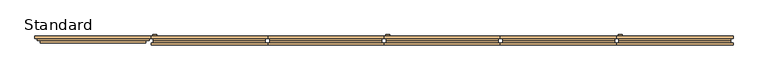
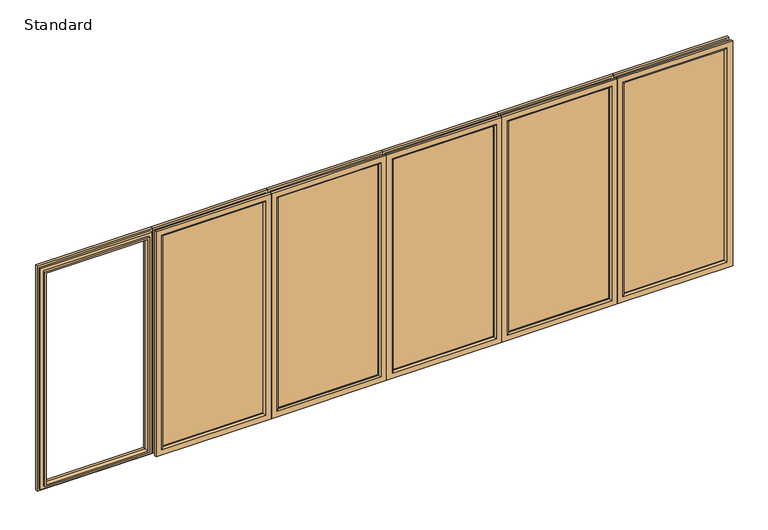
"""IFC4 building model written with IfcOpenShell, lengths in millimetres: door geometry, SMARTS_Visofold1000 : Standard."""

from ifc_helpers import new_model, si_unit, point, frame, frame_2d, origin, place, context, project, spatial, polyline, circle_curve, ellipse_curve, trimmed, segment, composite_curve, outline, extrude, faceted_brep, source, transform, mapped, element, save
from ifc_brep_helpers import plane_surface, cylinder_surface, advanced_brep


def standard_f7299581(model_context):
    return source(origin(), model_context, "Body", "SolidModel", [
        extrude(outline(composite_curve([segment(trimmed(circle_curve(frame_2d((1228.0996413, 1920.0)), 16.0), [point((1228.0996413, 1936.0))], [point((1228.0996413, 1904.0))], False, "CARTESIAN"), True, "CONTINUOUS"), segment(polyline([(1228.0996413, 1904.0), (1040.0996413, 1904.0)]), True, "CONTINUOUS"), segment(trimmed(circle_curve(frame_2d((1040.0996413, 1920.0)), 16.0), [point((1040.0996413, 1904.0))], [point((1040.0996413, 1936.0))], False, "CARTESIAN"), True, "CONTINUOUS"), segment(polyline([(1040.0996413, 1936.0), (1228.0996413, 1936.0)]), True, "CONTINUOUS")], self_intersect=False)), frame((0.0, 75.0, 0.0), z_axis=(0.0, 1.0, 0.0), x_axis=(0.0, 0.0, 1.0)), (0.0, 0.0, 1.0), 10.0),
        extrude(outline(polyline([(45.0, 1935.0), (45.0, 2815.0), (1955.0, 2815.0), (1955.0, 1935.0), (45.0, 1935.0)]), holes=[polyline([(1939.5, 1950.5), (1939.5, 2799.5), (60.5, 2799.5), (60.5, 1950.5), (1939.5, 1950.5)])]), frame((0.0, 17.4, 0.0), z_axis=(0.0, 1.0, 0.0), x_axis=(0.0, 0.0, 1.0)), (0.0, 0.0, 1.0), 35.0),
        faceted_brep([(1890.0, 74.4, 0.0), (1890.0, 52.4, 0.0), (1890.0, 52.4, 2000.0), (1890.0, 74.4, 2000.0), (1950.5, 52.4, 60.5), (1950.5, 74.4, 60.5), (1950.5, 74.4, 1939.5), (1950.5, 52.4, 1939.5), (2860.0, 52.4, 2000.0), (2860.0, 74.4, 2000.0), (2799.5, 74.4, 1939.5), (2799.5, 52.4, 1939.5), (2860.0, 52.4, 0.0), (2860.0, 74.4, 0.0), (2799.5, 74.4, 60.5), (2799.5, 52.4, 60.5), (1907.8691481, 34.8, 17.8691481), (2842.1308519, 34.8, 17.8691481), (2842.1308519, 34.8, 1982.1308519), (1907.8691481, 34.8, 1982.1308519), (1935.0, 34.8, 1955.0), (2815.0, 34.8, 1955.0), (2815.0, 34.8, 45.0), (1935.0, 34.8, 45.0), (1907.8691481, 52.4, 17.8691481), (1907.8691481, 52.4, 1982.1308519), (1935.0, 52.4, 45.0), (1935.0, 52.4, 1955.0), (2842.1308519, 52.4, 1982.1308519), (2815.0, 52.4, 1955.0), (2842.1308519, 52.4, 17.8691481), (2815.0, 52.4, 45.0)], [[[0, 1, 2, 3]], [[4, 5, 6, 7]], [[3, 2, 8, 9]], [[7, 6, 10, 11]], [[9, 8, 12, 13]], [[11, 10, 14, 15]], [[13, 12, 1, 0]], [[3, 9, 13, 0], [5, 14, 10, 6]], [[15, 14, 5, 4]], [[16, 17, 18, 19], [20, 21, 22, 23]], [[24, 16, 19, 25]], [[23, 26, 27, 20]], [[25, 19, 18, 28]], [[20, 27, 29, 21]], [[28, 18, 17, 30]], [[21, 29, 31, 22]], [[30, 17, 16, 24]], [[1, 12, 8, 2], [25, 28, 30, 24]], [[26, 31, 29, 27], [7, 11, 15, 4]], [[22, 31, 26, 23]]]),
        advanced_brep(
        [(1950.5, 13.3, 60.5), (1950.5, 17.4, 60.5), (1950.5, 17.4, 1939.5), (1950.5, 13.3, 1939.5), (1890.0, 17.4, 0.0), (1890.0, 0.0, 0.0), (1890.0, 0.0, 2000.0), (1890.0, 17.4, 2000.0), (2799.5, 17.4, 1939.5), (2799.5, 13.3, 1939.5), (2860.0, 0.0, 2000.0), (2860.0, 17.4, 2000.0), (2799.5, 17.4, 60.5), (2799.5, 13.3, 60.5), (2860.0, 0.0, 0.0), (2860.0, 17.4, 0.0), (1937.2, 0.0, 1952.8), (2812.8, 0.0, 1952.8), (2812.8, 0.0, 47.2), (1937.2, 0.0, 47.2), (1907.8691481, 34.8, 17.8691481), (1907.8691481, 17.4, 17.8691481), (1907.8691481, 17.4, 1982.1308519), (1907.8691481, 34.8, 1982.1308519), (2842.1308519, 17.4, 1982.1308519), (2842.1308519, 34.8, 1982.1308519), (2842.1308519, 17.4, 17.8691481), (2842.1308519, 34.8, 17.8691481), (1935.0, 17.4, 45.0), (1935.0, 34.8, 45.0), (1935.0, 34.8, 1955.0), (1935.0, 17.4, 1955.0), (2815.0, 34.8, 1955.0), (2815.0, 17.4, 1955.0), (2815.0, 34.8, 45.0), (2815.0, 17.4, 45.0)],
        [
            (0, 1),
            (1, 2),
            (2, 3),
            (3, 0),
            (4, 5),
            (5, 6),
            (6, 7),
            (7, 4),
            (2, 8),
            (8, 9),
            (9, 3),
            (6, 10),
            (10, 11),
            (11, 7),
            (8, 12),
            (12, 13),
            (13, 9),
            (10, 14),
            (14, 15),
            (15, 11),
            (12, 1),
            (0, 13),
            (5, 14),
            (16, 17),
            (17, 18),
            (18, 19),
            (19, 16),
            (4, 15),
            (19, 0, ellipse_curve(frame((1937.2, 13.3, 47.2), z_axis=(-0.70710678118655, 0.0, 0.7071067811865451), x_axis=(-0.7071067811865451, 0.0, -0.7071067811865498)), 18.8090404, 13.3)),
            (3, 16, ellipse_curve(frame((1937.2, 13.3, 1952.8), z_axis=(-0.7071067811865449, 0.0, -0.70710678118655), x_axis=(0.7071067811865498, 0.0, -0.7071067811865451)), 18.8090404, 13.3)),
            (9, 17, ellipse_curve(frame((2812.8, 13.3, 1952.8), z_axis=(-0.7071067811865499, 0.0, 0.707106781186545), x_axis=(-0.7071067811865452, 0.0, -0.7071067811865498)), 18.8090404, 13.3)),
            (13, 18, ellipse_curve(frame((2812.8, 13.3, 47.2), z_axis=(0.7071067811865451, 0.0, 0.7071067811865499), x_axis=(-0.7071067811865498, 0.0, 0.7071067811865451)), 18.8090404, 13.3)),
            (20, 21),
            (21, 22),
            (22, 23),
            (23, 20),
            (22, 24),
            (24, 25),
            (25, 23),
            (24, 26),
            (26, 27),
            (27, 25),
            (21, 26),
            (20, 27),
            (28, 29),
            (29, 30),
            (30, 31),
            (31, 28),
            (30, 32),
            (32, 33),
            (33, 31),
            (32, 34),
            (34, 35),
            (35, 33),
            (34, 29),
            (28, 35),
        ],
        [
            plane_surface(frame((1950.5, 17.4, 60.5), z_axis=(1.0, 0.0, 0.0), x_axis=(0.0, 0.0, 1.0))),
            plane_surface(frame((1890.0, 0.0, 0.0), z_axis=(-1.0, 0.0, 0.0), x_axis=(0.0, 0.0, 1.0))),
            plane_surface(frame((1950.5, 17.4, 1939.5), z_axis=(0.0, 0.0, -1.0), x_axis=(1.0, 0.0, 0.0))),
            plane_surface(frame((1890.0, 0.0, 2000.0), z_axis=(0.0, 0.0, 1.0), x_axis=(1.0, 0.0, 0.0))),
            plane_surface(frame((2799.5, 17.4, 1939.5), z_axis=(-1.0, 0.0, 0.0), x_axis=(0.0, 0.0, -1.0))),
            plane_surface(frame((2860.0, 0.0, 2000.0), z_axis=(1.0, 0.0, 0.0), x_axis=(0.0, 0.0, -1.0))),
            plane_surface(frame((2799.5, 17.4, 60.5), z_axis=(0.0, 0.0, 1.0), x_axis=(-1.0, 0.0, 0.0))),
            plane_surface(frame((2812.8, 0.0, 47.2), z_axis=(0.0, -1.0, 0.0), x_axis=(-1.0, 0.0, 0.0))),
            plane_surface(frame((2860.0, 0.0, 0.0), z_axis=(0.0, 0.0, -1.0), x_axis=(-1.0, 0.0, 0.0))),
            cylinder_surface(frame((1937.2, 13.3, 0.0), z_axis=(0.0, 0.0, -1.0), x_axis=(0.0, 1.0, 0.0)), 13.3),
            cylinder_surface(frame((1890.0, 13.3, 1952.8), z_axis=(-1.0, 0.0, 0.0), x_axis=(0.0, 1.0, 0.0)), 13.3),
            cylinder_surface(frame((2812.8, 13.3, 2000.0), z_axis=(0.0, 0.0, 1.0), x_axis=(0.0, 1.0, 0.0)), 13.3),
            cylinder_surface(frame((2860.0, 13.3, 47.2), z_axis=(1.0, 0.0, 0.0), x_axis=(0.0, 1.0, 0.0)), 13.3),
            plane_surface(frame((1907.8691481, 17.4, 17.8691481), z_axis=(-1.0, 0.0, 0.0), x_axis=(0.0, 0.0, 1.0))),
            plane_surface(frame((1907.8691481, 17.4, 1982.1308519), z_axis=(0.0, 0.0, 1.0), x_axis=(1.0, 0.0, 0.0))),
            plane_surface(frame((2842.1308519, 17.4, 1982.1308519), z_axis=(1.0, 0.0, 0.0), x_axis=(0.0, 0.0, -1.0))),
            plane_surface(frame((2860.0, 17.4, 0.0), z_axis=(0.0, 1.0, 0.0), x_axis=(-1.0, 0.0, 0.0))),
            plane_surface(frame((2842.1308519, 17.4, 17.8691481), z_axis=(0.0, 0.0, -1.0), x_axis=(-1.0, 0.0, 0.0))),
            plane_surface(frame((1935.0, 34.8, 45.0), z_axis=(1.0, 0.0, 0.0), x_axis=(0.0, 0.0, 1.0))),
            plane_surface(frame((1935.0, 34.8, 1955.0), z_axis=(0.0, 0.0, -1.0), x_axis=(1.0, 0.0, 0.0))),
            plane_surface(frame((2815.0, 34.8, 1955.0), z_axis=(-1.0, 0.0, 0.0), x_axis=(0.0, 0.0, -1.0))),
            plane_surface(frame((2815.0, 34.8, 45.0), z_axis=(0.0, 0.0, 1.0), x_axis=(-1.0, 0.0, 0.0))),
            plane_surface(frame((2815.0, 17.4, 45.0), z_axis=(0.0, 1.0, 0.0), x_axis=(-1.0, 0.0, 0.0))),
            plane_surface(frame((2842.1308519, 34.8, 17.8691481), z_axis=(0.0, 1.0, 0.0), x_axis=(-1.0, 0.0, 0.0))),
        ],
        [
            (0, [[1, 2, 3, 4]]),
            (1, [[5, 6, 7, 8]]),
            (2, [[-3, 9, 10, 11]]),
            (3, [[-7, 12, 13, 14]]),
            (4, [[-10, 15, 16, 17]]),
            (5, [[-13, 18, 19, 20]]),
            (6, [[-16, 21, -1, 22]]),
            (7, [[23, -18, -12, -6], [24, 25, 26, 27]]),
            (8, [[-19, -23, -5, 28]]),
            (9, [[29, -4, 30, -27]]),
            (10, [[-30, -11, 31, -24]]),
            (11, [[-31, -17, 32, -25]]),
            (12, [[-32, -22, -29, -26]]),
            (13, [[33, 34, 35, 36]]),
            (14, [[-35, 37, 38, 39]]),
            (15, [[-38, 40, 41, 42]]),
            (16, [[-14, -20, -28, -8], [43, -40, -37, -34]]),
            (17, [[-41, -43, -33, 44]]),
            (18, [[45, 46, 47, 48]]),
            (19, [[-47, 49, 50, 51]]),
            (20, [[-50, 52, 53, 54]]),
            (21, [[-53, 55, -45, 56]]),
            (22, [[-51, -54, -56, -48], [-21, -15, -9, -2]]),
            (23, [[-39, -42, -44, -36], [-55, -52, -49, -46]]),
        ],
    ),
        extrude(outline(polyline([(1950.5, 50.1484783), (2799.5, 50.1484783), (2799.5, 21.4), (1950.5, 21.4), (1950.5, 50.1484783)])), frame((0.0, 0.0, 60.5), z_axis=(0.0, 0.0, 1.0), x_axis=(1.0, 0.0, 0.0)), (0.0, 0.0, 1.0), 1879.0),
        extrude(outline(polyline([(45.0, 1845.0), (1955.0, 1845.0), (1955.0, 965.0), (45.0, 965.0), (45.0, 1845.0)]), holes=[polyline([(1939.5, 1829.5), (60.5, 1829.5), (60.5, 980.5), (1939.5, 980.5), (1939.5, 1829.5)])]), frame((0.0, 17.4, 0.0), z_axis=(0.0, 1.0, 0.0), x_axis=(0.0, 0.0, 1.0)), (0.0, 0.0, 1.0), 35.0),
        faceted_brep([(1890.0, 74.4, 0.0), (1890.0, 74.4, 2000.0), (1890.0, 52.4, 2000.0), (1890.0, 52.4, 0.0), (1829.5, 52.4, 60.5), (1829.5, 52.4, 1939.5), (1829.5, 74.4, 1939.5), (1829.5, 74.4, 60.5), (920.0, 74.4, 2000.0), (920.0, 52.4, 2000.0), (980.5, 52.4, 1939.5), (980.5, 74.4, 1939.5), (920.0, 74.4, 0.0), (920.0, 52.4, 0.0), (980.5, 52.4, 60.5), (980.5, 74.4, 60.5), (1872.1308519, 34.8, 17.8691481), (1872.1308519, 34.8, 1982.1308519), (937.8691481, 34.8, 1982.1308519), (937.8691481, 34.8, 17.8691481), (1845.0, 34.8, 1955.0), (1845.0, 34.8, 45.0), (965.0, 34.8, 45.0), (965.0, 34.8, 1955.0), (1872.1308519, 52.4, 17.8691481), (1872.1308519, 52.4, 1982.1308519), (1845.0, 52.4, 1955.0), (1845.0, 52.4, 45.0), (937.8691481, 52.4, 1982.1308519), (965.0, 52.4, 1955.0), (937.8691481, 52.4, 17.8691481), (965.0, 52.4, 45.0)], [[[0, 1, 2, 3]], [[4, 5, 6, 7]], [[1, 8, 9, 2]], [[5, 10, 11, 6]], [[8, 12, 13, 9]], [[10, 14, 15, 11]], [[12, 0, 3, 13]], [[1, 0, 12, 8], [7, 6, 11, 15]], [[14, 4, 7, 15]], [[16, 17, 18, 19], [20, 21, 22, 23]], [[24, 25, 17, 16]], [[21, 20, 26, 27]], [[25, 28, 18, 17]], [[20, 23, 29, 26]], [[28, 30, 19, 18]], [[23, 22, 31, 29]], [[30, 24, 16, 19]], [[3, 2, 9, 13], [25, 24, 30, 28]], [[27, 26, 29, 31], [5, 4, 14, 10]], [[22, 21, 27, 31]]]),
        advanced_brep(
        [(1829.5, 13.3, 60.5), (1829.5, 13.3, 1939.5), (1829.5, 17.4, 1939.5), (1829.5, 17.4, 60.5), (1890.0, 17.4, 0.0), (1890.0, 17.4, 2000.0), (1890.0, 0.0, 2000.0), (1890.0, 0.0, 0.0), (980.5, 13.3, 1939.5), (980.5, 17.4, 1939.5), (920.0, 17.4, 2000.0), (920.0, 0.0, 2000.0), (980.5, 13.3, 60.5), (980.5, 17.4, 60.5), (920.0, 17.4, 0.0), (920.0, 0.0, 0.0), (1842.8, 0.0, 1952.8), (1842.8, 0.0, 47.2), (967.2, 0.0, 47.2), (967.2, 0.0, 1952.8), (1872.1308519, 34.8, 17.8691481), (1872.1308519, 34.8, 1982.1308519), (1872.1308519, 17.4, 1982.1308519), (1872.1308519, 17.4, 17.8691481), (937.8691481, 34.8, 1982.1308519), (937.8691481, 17.4, 1982.1308519), (937.8691481, 34.8, 17.8691481), (937.8691481, 17.4, 17.8691481), (1845.0, 17.4, 45.0), (1845.0, 17.4, 1955.0), (1845.0, 34.8, 1955.0), (1845.0, 34.8, 45.0), (965.0, 17.4, 1955.0), (965.0, 34.8, 1955.0), (965.0, 17.4, 45.0), (965.0, 34.8, 45.0)],
        [
            (0, 1),
            (1, 2),
            (2, 3),
            (3, 0),
            (4, 5),
            (5, 6),
            (6, 7),
            (7, 4),
            (1, 8),
            (8, 9),
            (9, 2),
            (5, 10),
            (10, 11),
            (11, 6),
            (8, 12),
            (12, 13),
            (13, 9),
            (10, 14),
            (14, 15),
            (15, 11),
            (12, 0),
            (3, 13),
            (15, 7),
            (16, 17),
            (17, 18),
            (18, 19),
            (19, 16),
            (14, 4),
            (16, 1, ellipse_curve(frame((1842.8, 13.3, 1952.8), z_axis=(0.7071067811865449, 0.0, -0.70710678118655), x_axis=(-0.7071067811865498, 0.0, -0.7071067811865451)), 18.8090404, 13.3)),
            (0, 17, ellipse_curve(frame((1842.8, 13.3, 47.2), z_axis=(0.70710678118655, 0.0, 0.7071067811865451), x_axis=(0.7071067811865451, 0.0, -0.7071067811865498)), 18.8090404, 13.3)),
            (19, 8, ellipse_curve(frame((967.2, 13.3, 1952.8), z_axis=(0.7071067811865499, 0.0, 0.707106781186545), x_axis=(0.7071067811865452, 0.0, -0.7071067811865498)), 18.8090404, 13.3)),
            (18, 12, ellipse_curve(frame((967.2, 13.3, 47.2), z_axis=(-0.7071067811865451, 0.0, 0.7071067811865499), x_axis=(0.7071067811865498, 0.0, 0.7071067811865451)), 18.8090404, 13.3)),
            (20, 21),
            (21, 22),
            (22, 23),
            (23, 20),
            (21, 24),
            (24, 25),
            (25, 22),
            (24, 26),
            (26, 27),
            (27, 25),
            (27, 23),
            (26, 20),
            (28, 29),
            (29, 30),
            (30, 31),
            (31, 28),
            (29, 32),
            (32, 33),
            (33, 30),
            (32, 34),
            (34, 35),
            (35, 33),
            (34, 28),
            (31, 35),
        ],
        [
            plane_surface(frame((1829.5, 17.4, 60.5), z_axis=(-1.0, 0.0, 0.0), x_axis=(0.0, 0.0, 1.0))),
            plane_surface(frame((1890.0, 0.0, 0.0), z_axis=(1.0, 0.0, 0.0), x_axis=(0.0, 0.0, 1.0))),
            plane_surface(frame((1829.5, 17.4, 1939.5), z_axis=(0.0, 0.0, -1.0), x_axis=(-1.0, 0.0, 0.0))),
            plane_surface(frame((1890.0, 0.0, 2000.0), z_axis=(0.0, 0.0, 1.0), x_axis=(-1.0, 0.0, 0.0))),
            plane_surface(frame((980.5, 17.4, 1939.5), z_axis=(1.0, 0.0, 0.0), x_axis=(0.0, 0.0, -1.0))),
            plane_surface(frame((920.0, 0.0, 2000.0), z_axis=(-1.0, 0.0, 0.0), x_axis=(0.0, 0.0, -1.0))),
            plane_surface(frame((980.5, 17.4, 60.5), z_axis=(0.0, 0.0, 1.0), x_axis=(1.0, 0.0, 0.0))),
            plane_surface(frame((967.2, 0.0, 47.2), z_axis=(0.0, -1.0, 0.0), x_axis=(1.0, 0.0, 0.0))),
            plane_surface(frame((920.0, 0.0, 0.0), z_axis=(0.0, 0.0, -1.0), x_axis=(1.0, 0.0, 0.0))),
            cylinder_surface(frame((1842.8, 13.3, 0.0), z_axis=(0.0, 0.0, -1.0), x_axis=(0.0, 1.0, 0.0)), 13.3),
            cylinder_surface(frame((1890.0, 13.3, 1952.8), z_axis=(1.0, 0.0, 0.0), x_axis=(0.0, 1.0, 0.0)), 13.3),
            cylinder_surface(frame((967.2, 13.3, 2000.0), z_axis=(0.0, 0.0, 1.0), x_axis=(0.0, 1.0, 0.0)), 13.3),
            cylinder_surface(frame((920.0, 13.3, 47.2), z_axis=(-1.0, 0.0, 0.0), x_axis=(0.0, 1.0, 0.0)), 13.3),
            plane_surface(frame((1872.1308519, 17.4, 17.8691481), z_axis=(1.0, 0.0, 0.0), x_axis=(0.0, 0.0, 1.0))),
            plane_surface(frame((1872.1308519, 17.4, 1982.1308519), z_axis=(0.0, 0.0, 1.0), x_axis=(-1.0, 0.0, 0.0))),
            plane_surface(frame((937.8691481, 17.4, 1982.1308519), z_axis=(-1.0, 0.0, 0.0), x_axis=(0.0, 0.0, -1.0))),
            plane_surface(frame((920.0, 17.4, 0.0), z_axis=(0.0, 1.0, 0.0), x_axis=(1.0, 0.0, 0.0))),
            plane_surface(frame((937.8691481, 17.4, 17.8691481), z_axis=(0.0, 0.0, -1.0), x_axis=(1.0, 0.0, 0.0))),
            plane_surface(frame((1845.0, 34.8, 45.0), z_axis=(-1.0, 0.0, 0.0), x_axis=(0.0, 0.0, 1.0))),
            plane_surface(frame((1845.0, 34.8, 1955.0), z_axis=(0.0, 0.0, -1.0), x_axis=(-1.0, 0.0, 0.0))),
            plane_surface(frame((965.0, 34.8, 1955.0), z_axis=(1.0, 0.0, 0.0), x_axis=(0.0, 0.0, -1.0))),
            plane_surface(frame((965.0, 34.8, 45.0), z_axis=(0.0, 0.0, 1.0), x_axis=(1.0, 0.0, 0.0))),
            plane_surface(frame((965.0, 17.4, 45.0), z_axis=(0.0, 1.0, 0.0), x_axis=(1.0, 0.0, 0.0))),
            plane_surface(frame((937.8691481, 34.8, 17.8691481), z_axis=(0.0, 1.0, 0.0), x_axis=(1.0, 0.0, 0.0))),
        ],
        [
            (0, [[1, 2, 3, 4]]),
            (1, [[5, 6, 7, 8]]),
            (2, [[9, 10, 11, -2]]),
            (3, [[12, 13, 14, -6]]),
            (4, [[15, 16, 17, -10]]),
            (5, [[18, 19, 20, -13]]),
            (6, [[21, -4, 22, -16]]),
            (7, [[-7, -14, -20, 23], [24, 25, 26, 27]]),
            (8, [[28, -8, -23, -19]]),
            (9, [[-24, 29, -1, 30]]),
            (10, [[-27, 31, -9, -29]]),
            (11, [[-26, 32, -15, -31]]),
            (12, [[-25, -30, -21, -32]]),
            (13, [[33, 34, 35, 36]]),
            (14, [[37, 38, 39, -34]]),
            (15, [[40, 41, 42, -38]]),
            (16, [[-5, -28, -18, -12], [-35, -39, -42, 43]]),
            (17, [[44, -36, -43, -41]]),
            (18, [[45, 46, 47, 48]]),
            (19, [[49, 50, 51, -46]]),
            (20, [[52, 53, 54, -50]]),
            (21, [[55, -48, 56, -53]]),
            (22, [[-45, -55, -52, -49], [-3, -11, -17, -22]]),
            (23, [[-33, -44, -40, -37], [-47, -51, -54, -56]]),
        ],
    ),
        extrude(outline(polyline([(1829.5, 50.1484783), (1829.5, 21.4), (980.5, 21.4), (980.5, 50.1484783), (1829.5, 50.1484783)])), frame((0.0, 0.0, 60.5), z_axis=(0.0, 0.0, 1.0), x_axis=(1.0, 0.0, 0.0)), (0.0, 0.0, 1.0), 1879.0),
        extrude(outline(composite_curve([segment(trimmed(circle_curve(frame_2d((1228.0996413, -20.0)), 16.0), [point((1228.0996413, -4.0))], [point((1228.0996413, -36.0))], False, "CARTESIAN"), True, "CONTINUOUS"), segment(polyline([(1228.0996413, -36.0), (1040.0996413, -36.0)]), True, "CONTINUOUS"), segment(trimmed(circle_curve(frame_2d((1040.0996413, -20.0)), 16.0), [point((1040.0996413, -36.0))], [point((1040.0996413, -4.0))], False, "CARTESIAN"), True, "CONTINUOUS"), segment(polyline([(1040.0996413, -4.0), (1228.0996413, -4.0)]), True, "CONTINUOUS")], self_intersect=False)), frame((0.0, 75.0, 0.0), z_axis=(0.0, 1.0, 0.0), x_axis=(0.0, 0.0, 1.0)), (0.0, 0.0, 1.0), 10.0),
        extrude(outline(polyline([(45.0, -5.0), (45.0, 875.0), (1955.0, 875.0), (1955.0, -5.0), (45.0, -5.0)]), holes=[polyline([(1939.5, 10.5), (1939.5, 859.5), (60.5, 859.5), (60.5, 10.5), (1939.5, 10.5)])]), frame((0.0, 17.4, 0.0), z_axis=(0.0, 1.0, 0.0), x_axis=(0.0, 0.0, 1.0)), (0.0, 0.0, 1.0), 35.0),
        faceted_brep([(-50.0, 74.4, 0.0), (-50.0, 52.4, 0.0), (-50.0, 52.4, 2000.0), (-50.0, 74.4, 2000.0), (10.5, 52.4, 60.5), (10.5, 74.4, 60.5), (10.5, 74.4, 1939.5), (10.5, 52.4, 1939.5), (920.0, 52.4, 2000.0), (920.0, 74.4, 2000.0), (859.5, 74.4, 1939.5), (859.5, 52.4, 1939.5), (920.0, 52.4, 0.0), (920.0, 74.4, 0.0), (859.5, 74.4, 60.5), (859.5, 52.4, 60.5), (-32.1308519, 34.8, 17.8691481), (902.1308519, 34.8, 17.8691481), (902.1308519, 34.8, 1982.1308519), (-32.1308519, 34.8, 1982.1308519), (-5.0, 34.8, 1955.0), (875.0, 34.8, 1955.0), (875.0, 34.8, 45.0), (-5.0, 34.8, 45.0), (-32.1308519, 52.4, 17.8691481), (-32.1308519, 52.4, 1982.1308519), (-5.0, 52.4, 45.0), (-5.0, 52.4, 1955.0), (902.1308519, 52.4, 1982.1308519), (875.0, 52.4, 1955.0), (902.1308519, 52.4, 17.8691481), (875.0, 52.4, 45.0)], [[[0, 1, 2, 3]], [[4, 5, 6, 7]], [[3, 2, 8, 9]], [[7, 6, 10, 11]], [[9, 8, 12, 13]], [[11, 10, 14, 15]], [[13, 12, 1, 0]], [[3, 9, 13, 0], [5, 14, 10, 6]], [[15, 14, 5, 4]], [[16, 17, 18, 19], [20, 21, 22, 23]], [[24, 16, 19, 25]], [[23, 26, 27, 20]], [[25, 19, 18, 28]], [[20, 27, 29, 21]], [[28, 18, 17, 30]], [[21, 29, 31, 22]], [[30, 17, 16, 24]], [[1, 12, 8, 2], [25, 28, 30, 24]], [[26, 31, 29, 27], [7, 11, 15, 4]], [[22, 31, 26, 23]]]),
        advanced_brep(
        [(10.5, 13.3, 60.5), (10.5, 17.4, 60.5), (10.5, 17.4, 1939.5), (10.5, 13.3, 1939.5), (-50.0, 17.4, 0.0), (-50.0, 0.0, 0.0), (-50.0, 0.0, 2000.0), (-50.0, 17.4, 2000.0), (859.5, 17.4, 1939.5), (859.5, 13.3, 1939.5), (920.0, 0.0, 2000.0), (920.0, 17.4, 2000.0), (859.5, 17.4, 60.5), (859.5, 13.3, 60.5), (920.0, 0.0, 0.0), (920.0, 17.4, 0.0), (-2.8, 0.0, 1952.8), (872.8, 0.0, 1952.8), (872.8, 0.0, 47.2), (-2.8, 0.0, 47.2), (-32.1308519, 34.8, 17.8691481), (-32.1308519, 17.4, 17.8691481), (-32.1308519, 17.4, 1982.1308519), (-32.1308519, 34.8, 1982.1308519), (902.1308519, 17.4, 1982.1308519), (902.1308519, 34.8, 1982.1308519), (902.1308519, 17.4, 17.8691481), (902.1308519, 34.8, 17.8691481), (-5.0, 17.4, 45.0), (-5.0, 34.8, 45.0), (-5.0, 34.8, 1955.0), (-5.0, 17.4, 1955.0), (875.0, 34.8, 1955.0), (875.0, 17.4, 1955.0), (875.0, 34.8, 45.0), (875.0, 17.4, 45.0)],
        [
            (0, 1),
            (1, 2),
            (2, 3),
            (3, 0),
            (4, 5),
            (5, 6),
            (6, 7),
            (7, 4),
            (2, 8),
            (8, 9),
            (9, 3),
            (6, 10),
            (10, 11),
            (11, 7),
            (8, 12),
            (12, 13),
            (13, 9),
            (10, 14),
            (14, 15),
            (15, 11),
            (12, 1),
            (0, 13),
            (5, 14),
            (16, 17),
            (17, 18),
            (18, 19),
            (19, 16),
            (4, 15),
            (19, 0, ellipse_curve(frame((-2.8, 13.3, 47.2), z_axis=(-0.70710678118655, 0.0, 0.7071067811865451), x_axis=(-0.7071067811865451, 0.0, -0.7071067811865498)), 18.8090404, 13.3)),
            (3, 16, ellipse_curve(frame((-2.8, 13.3, 1952.8), z_axis=(-0.7071067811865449, 0.0, -0.70710678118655), x_axis=(0.7071067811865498, 0.0, -0.7071067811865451)), 18.8090404, 13.3)),
            (9, 17, ellipse_curve(frame((872.8, 13.3, 1952.8), z_axis=(-0.7071067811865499, 0.0, 0.707106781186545), x_axis=(-0.7071067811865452, 0.0, -0.7071067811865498)), 18.8090404, 13.3)),
            (13, 18, ellipse_curve(frame((872.8, 13.3, 47.2), z_axis=(0.7071067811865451, 0.0, 0.7071067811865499), x_axis=(-0.7071067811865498, 0.0, 0.7071067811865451)), 18.8090404, 13.3)),
            (20, 21),
            (21, 22),
            (22, 23),
            (23, 20),
            (22, 24),
            (24, 25),
            (25, 23),
            (24, 26),
            (26, 27),
            (27, 25),
            (21, 26),
            (20, 27),
            (28, 29),
            (29, 30),
            (30, 31),
            (31, 28),
            (30, 32),
            (32, 33),
            (33, 31),
            (32, 34),
            (34, 35),
            (35, 33),
            (34, 29),
            (28, 35),
        ],
        [
            plane_surface(frame((10.5, 17.4, 60.5), z_axis=(1.0, 0.0, 0.0), x_axis=(0.0, 0.0, 1.0))),
            plane_surface(frame((-50.0, 0.0, 0.0), z_axis=(-1.0, 0.0, 0.0), x_axis=(0.0, 0.0, 1.0))),
            plane_surface(frame((10.5, 17.4, 1939.5), z_axis=(0.0, 0.0, -1.0), x_axis=(1.0, 0.0, 0.0))),
            plane_surface(frame((-50.0, 0.0, 2000.0), z_axis=(0.0, 0.0, 1.0), x_axis=(1.0, 0.0, 0.0))),
            plane_surface(frame((859.5, 17.4, 1939.5), z_axis=(-1.0, 0.0, 0.0), x_axis=(0.0, 0.0, -1.0))),
            plane_surface(frame((920.0, 0.0, 2000.0), z_axis=(1.0, 0.0, 0.0), x_axis=(0.0, 0.0, -1.0))),
            plane_surface(frame((859.5, 17.4, 60.5), z_axis=(0.0, 0.0, 1.0), x_axis=(-1.0, 0.0, 0.0))),
            plane_surface(frame((872.8, 0.0, 47.2), z_axis=(0.0, -1.0, 0.0), x_axis=(-1.0, 0.0, 0.0))),
            plane_surface(frame((920.0, 0.0, 0.0), z_axis=(0.0, 0.0, -1.0), x_axis=(-1.0, 0.0, 0.0))),
            cylinder_surface(frame((-2.8, 13.3, 0.0), z_axis=(0.0, 0.0, -1.0), x_axis=(0.0, 1.0, 0.0)), 13.3),
            cylinder_surface(frame((-50.0, 13.3, 1952.8), z_axis=(-1.0, 0.0, 0.0), x_axis=(0.0, 1.0, 0.0)), 13.3),
            cylinder_surface(frame((872.8, 13.3, 2000.0), z_axis=(0.0, 0.0, 1.0), x_axis=(0.0, 1.0, 0.0)), 13.3),
            cylinder_surface(frame((920.0, 13.3, 47.2), z_axis=(1.0, 0.0, 0.0), x_axis=(0.0, 1.0, 0.0)), 13.3),
            plane_surface(frame((-32.1308519, 17.4, 17.8691481), z_axis=(-1.0, 0.0, 0.0), x_axis=(0.0, 0.0, 1.0))),
            plane_surface(frame((-32.1308519, 17.4, 1982.1308519), z_axis=(0.0, 0.0, 1.0), x_axis=(1.0, 0.0, 0.0))),
            plane_surface(frame((902.1308519, 17.4, 1982.1308519), z_axis=(1.0, 0.0, 0.0), x_axis=(0.0, 0.0, -1.0))),
            plane_surface(frame((920.0, 17.4, 0.0), z_axis=(0.0, 1.0, 0.0), x_axis=(-1.0, 0.0, 0.0))),
            plane_surface(frame((902.1308519, 17.4, 17.8691481), z_axis=(0.0, 0.0, -1.0), x_axis=(-1.0, 0.0, 0.0))),
            plane_surface(frame((-5.0, 34.8, 45.0), z_axis=(1.0, 0.0, 0.0), x_axis=(0.0, 0.0, 1.0))),
            plane_surface(frame((-5.0, 34.8, 1955.0), z_axis=(0.0, 0.0, -1.0), x_axis=(1.0, 0.0, 0.0))),
            plane_surface(frame((875.0, 34.8, 1955.0), z_axis=(-1.0, 0.0, 0.0), x_axis=(0.0, 0.0, -1.0))),
            plane_surface(frame((875.0, 34.8, 45.0), z_axis=(0.0, 0.0, 1.0), x_axis=(-1.0, 0.0, 0.0))),
            plane_surface(frame((875.0, 17.4, 45.0), z_axis=(0.0, 1.0, 0.0), x_axis=(-1.0, 0.0, 0.0))),
            plane_surface(frame((902.1308519, 34.8, 17.8691481), z_axis=(0.0, 1.0, 0.0), x_axis=(-1.0, 0.0, 0.0))),
        ],
        [
            (0, [[1, 2, 3, 4]]),
            (1, [[5, 6, 7, 8]]),
            (2, [[-3, 9, 10, 11]]),
            (3, [[-7, 12, 13, 14]]),
            (4, [[-10, 15, 16, 17]]),
            (5, [[-13, 18, 19, 20]]),
            (6, [[-16, 21, -1, 22]]),
            (7, [[23, -18, -12, -6], [24, 25, 26, 27]]),
            (8, [[-19, -23, -5, 28]]),
            (9, [[29, -4, 30, -27]]),
            (10, [[-30, -11, 31, -24]]),
            (11, [[-31, -17, 32, -25]]),
            (12, [[-32, -22, -29, -26]]),
            (13, [[33, 34, 35, 36]]),
            (14, [[-35, 37, 38, 39]]),
            (15, [[-38, 40, 41, 42]]),
            (16, [[-14, -20, -28, -8], [43, -40, -37, -34]]),
            (17, [[-41, -43, -33, 44]]),
            (18, [[45, 46, 47, 48]]),
            (19, [[-47, 49, 50, 51]]),
            (20, [[-50, 52, 53, 54]]),
            (21, [[-53, 55, -45, 56]]),
            (22, [[-51, -54, -56, -48], [-21, -15, -9, -2]]),
            (23, [[-39, -42, -44, -36], [-55, -52, -49, -46]]),
        ],
    ),
        extrude(outline(polyline([(10.5, 50.1484783), (859.5, 50.1484783), (859.5, 21.4), (10.5, 21.4), (10.5, 50.1484783)])), frame((0.0, 0.0, 60.5), z_axis=(0.0, 0.0, 1.0), x_axis=(1.0, 0.0, 0.0)), (0.0, 0.0, 1.0), 1879.0),
        extrude(outline(composite_curve([segment(trimmed(circle_curve(frame_2d((1228.0996413, -1960.0)), 16.0), [point((1228.0996413, -1944.0))], [point((1228.0996413, -1976.0))], False, "CARTESIAN"), True, "CONTINUOUS"), segment(polyline([(1228.0996413, -1976.0), (1040.0996413, -1976.0)]), True, "CONTINUOUS"), segment(trimmed(circle_curve(frame_2d((1040.0996413, -1960.0)), 16.0), [point((1040.0996413, -1976.0))], [point((1040.0996413, -1944.0))], False, "CARTESIAN"), True, "CONTINUOUS"), segment(polyline([(1040.0996413, -1944.0), (1228.0996413, -1944.0)]), True, "CONTINUOUS")], self_intersect=False)), frame((0.0, 75.0, 0.0), z_axis=(0.0, 1.0, 0.0), x_axis=(0.0, 0.0, 1.0)), (0.0, 0.0, 1.0), 10.0),
        extrude(outline(polyline([(45.0, -1945.0), (45.0, -1065.0), (1955.0, -1065.0), (1955.0, -1945.0), (45.0, -1945.0)]), holes=[polyline([(1939.5, -1929.5), (1939.5, -1080.5), (60.5, -1080.5), (60.5, -1929.5), (1939.5, -1929.5)])]), frame((0.0, 17.4, 0.0), z_axis=(0.0, 1.0, 0.0), x_axis=(0.0, 0.0, 1.0)), (0.0, 0.0, 1.0), 35.0),
        faceted_brep([(-1990.0, 74.4, 0.0), (-1990.0, 52.4, 0.0), (-1990.0, 52.4, 2000.0), (-1990.0, 74.4, 2000.0), (-1929.5, 52.4, 60.5), (-1929.5, 74.4, 60.5), (-1929.5, 74.4, 1939.5), (-1929.5, 52.4, 1939.5), (-1020.0, 52.4, 2000.0), (-1020.0, 74.4, 2000.0), (-1080.5, 74.4, 1939.5), (-1080.5, 52.4, 1939.5), (-1020.0, 52.4, 0.0), (-1020.0, 74.4, 0.0), (-1080.5, 74.4, 60.5), (-1080.5, 52.4, 60.5), (-1972.1308519, 34.8, 17.8691481), (-1037.8691481, 34.8, 17.8691481), (-1037.8691481, 34.8, 1982.1308519), (-1972.1308519, 34.8, 1982.1308519), (-1945.0, 34.8, 1955.0), (-1065.0, 34.8, 1955.0), (-1065.0, 34.8, 45.0), (-1945.0, 34.8, 45.0), (-1972.1308519, 52.4, 17.8691481), (-1972.1308519, 52.4, 1982.1308519), (-1945.0, 52.4, 45.0), (-1945.0, 52.4, 1955.0), (-1037.8691481, 52.4, 1982.1308519), (-1065.0, 52.4, 1955.0), (-1037.8691481, 52.4, 17.8691481), (-1065.0, 52.4, 45.0)], [[[0, 1, 2, 3]], [[4, 5, 6, 7]], [[3, 2, 8, 9]], [[7, 6, 10, 11]], [[9, 8, 12, 13]], [[11, 10, 14, 15]], [[13, 12, 1, 0]], [[3, 9, 13, 0], [5, 14, 10, 6]], [[15, 14, 5, 4]], [[16, 17, 18, 19], [20, 21, 22, 23]], [[24, 16, 19, 25]], [[23, 26, 27, 20]], [[25, 19, 18, 28]], [[20, 27, 29, 21]], [[28, 18, 17, 30]], [[21, 29, 31, 22]], [[30, 17, 16, 24]], [[1, 12, 8, 2], [25, 28, 30, 24]], [[26, 31, 29, 27], [7, 11, 15, 4]], [[22, 31, 26, 23]]]),
        advanced_brep(
        [(-1929.5, 13.3, 60.5), (-1929.5, 17.4, 60.5), (-1929.5, 17.4, 1939.5), (-1929.5, 13.3, 1939.5), (-1990.0, 17.4, 0.0), (-1990.0, 0.0, 0.0), (-1990.0, 0.0, 2000.0), (-1990.0, 17.4, 2000.0), (-1080.5, 17.4, 1939.5), (-1080.5, 13.3, 1939.5), (-1020.0, 0.0, 2000.0), (-1020.0, 17.4, 2000.0), (-1080.5, 17.4, 60.5), (-1080.5, 13.3, 60.5), (-1020.0, 0.0, 0.0), (-1020.0, 17.4, 0.0), (-1942.8, 0.0, 1952.8), (-1067.2, 0.0, 1952.8), (-1067.2, 0.0, 47.2), (-1942.8, 0.0, 47.2), (-1972.1308519, 34.8, 17.8691481), (-1972.1308519, 17.4, 17.8691481), (-1972.1308519, 17.4, 1982.1308519), (-1972.1308519, 34.8, 1982.1308519), (-1037.8691481, 17.4, 1982.1308519), (-1037.8691481, 34.8, 1982.1308519), (-1037.8691481, 17.4, 17.8691481), (-1037.8691481, 34.8, 17.8691481), (-1945.0, 17.4, 45.0), (-1945.0, 34.8, 45.0), (-1945.0, 34.8, 1955.0), (-1945.0, 17.4, 1955.0), (-1065.0, 34.8, 1955.0), (-1065.0, 17.4, 1955.0), (-1065.0, 34.8, 45.0), (-1065.0, 17.4, 45.0)],
        [
            (0, 1),
            (1, 2),
            (2, 3),
            (3, 0),
            (4, 5),
            (5, 6),
            (6, 7),
            (7, 4),
            (2, 8),
            (8, 9),
            (9, 3),
            (6, 10),
            (10, 11),
            (11, 7),
            (8, 12),
            (12, 13),
            (13, 9),
            (10, 14),
            (14, 15),
            (15, 11),
            (12, 1),
            (0, 13),
            (5, 14),
            (16, 17),
            (17, 18),
            (18, 19),
            (19, 16),
            (4, 15),
            (19, 0, ellipse_curve(frame((-1942.8, 13.3, 47.2), z_axis=(-0.70710678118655, 0.0, 0.7071067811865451), x_axis=(-0.7071067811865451, 0.0, -0.7071067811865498)), 18.8090404, 13.3)),
            (3, 16, ellipse_curve(frame((-1942.8, 13.3, 1952.8), z_axis=(-0.7071067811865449, 0.0, -0.70710678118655), x_axis=(0.7071067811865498, 0.0, -0.7071067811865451)), 18.8090404, 13.3)),
            (9, 17, ellipse_curve(frame((-1067.2, 13.3, 1952.8), z_axis=(-0.7071067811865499, 0.0, 0.707106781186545), x_axis=(-0.7071067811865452, 0.0, -0.7071067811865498)), 18.8090404, 13.3)),
            (13, 18, ellipse_curve(frame((-1067.2, 13.3, 47.2), z_axis=(0.7071067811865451, 0.0, 0.7071067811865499), x_axis=(-0.7071067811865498, 0.0, 0.7071067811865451)), 18.8090404, 13.3)),
            (20, 21),
            (21, 22),
            (22, 23),
            (23, 20),
            (22, 24),
            (24, 25),
            (25, 23),
            (24, 26),
            (26, 27),
            (27, 25),
            (21, 26),
            (20, 27),
            (28, 29),
            (29, 30),
            (30, 31),
            (31, 28),
            (30, 32),
            (32, 33),
            (33, 31),
            (32, 34),
            (34, 35),
            (35, 33),
            (34, 29),
            (28, 35),
        ],
        [
            plane_surface(frame((-1929.5, 17.4, 60.5), z_axis=(1.0, 0.0, 0.0), x_axis=(0.0, 0.0, 1.0))),
            plane_surface(frame((-1990.0, 0.0, 0.0), z_axis=(-1.0, 0.0, 0.0), x_axis=(0.0, 0.0, 1.0))),
            plane_surface(frame((-1929.5, 17.4, 1939.5), z_axis=(0.0, 0.0, -1.0), x_axis=(1.0, 0.0, 0.0))),
            plane_surface(frame((-1990.0, 0.0, 2000.0), z_axis=(0.0, 0.0, 1.0), x_axis=(1.0, 0.0, 0.0))),
            plane_surface(frame((-1080.5, 17.4, 1939.5), z_axis=(-1.0, 0.0, 0.0), x_axis=(0.0, 0.0, -1.0))),
            plane_surface(frame((-1020.0, 0.0, 2000.0), z_axis=(1.0, 0.0, 0.0), x_axis=(0.0, 0.0, -1.0))),
            plane_surface(frame((-1080.5, 17.4, 60.5), z_axis=(0.0, 0.0, 1.0), x_axis=(-1.0, 0.0, 0.0))),
            plane_surface(frame((-1067.2, 0.0, 47.2), z_axis=(0.0, -1.0, 0.0), x_axis=(-1.0, 0.0, 0.0))),
            plane_surface(frame((-1020.0, 0.0, 0.0), z_axis=(0.0, 0.0, -1.0), x_axis=(-1.0, 0.0, 0.0))),
            cylinder_surface(frame((-1942.8, 13.3, 0.0), z_axis=(0.0, 0.0, -1.0), x_axis=(0.0, 1.0, 0.0)), 13.3),
            cylinder_surface(frame((-1990.0, 13.3, 1952.8), z_axis=(-1.0, 0.0, 0.0), x_axis=(0.0, 1.0, 0.0)), 13.3),
            cylinder_surface(frame((-1067.2, 13.3, 2000.0), z_axis=(0.0, 0.0, 1.0), x_axis=(0.0, 1.0, 0.0)), 13.3),
            cylinder_surface(frame((-1020.0, 13.3, 47.2), z_axis=(1.0, 0.0, 0.0), x_axis=(0.0, 1.0, 0.0)), 13.3),
            plane_surface(frame((-1972.1308519, 17.4, 17.8691481), z_axis=(-1.0, 0.0, 0.0), x_axis=(0.0, 0.0, 1.0))),
            plane_surface(frame((-1972.1308519, 17.4, 1982.1308519), z_axis=(0.0, 0.0, 1.0), x_axis=(1.0, 0.0, 0.0))),
            plane_surface(frame((-1037.8691481, 17.4, 1982.1308519), z_axis=(1.0, 0.0, 0.0), x_axis=(0.0, 0.0, -1.0))),
            plane_surface(frame((-1020.0, 17.4, 0.0), z_axis=(0.0, 1.0, 0.0), x_axis=(-1.0, 0.0, 0.0))),
            plane_surface(frame((-1037.8691481, 17.4, 17.8691481), z_axis=(0.0, 0.0, -1.0), x_axis=(-1.0, 0.0, 0.0))),
            plane_surface(frame((-1945.0, 34.8, 45.0), z_axis=(1.0, 0.0, 0.0), x_axis=(0.0, 0.0, 1.0))),
            plane_surface(frame((-1945.0, 34.8, 1955.0), z_axis=(0.0, 0.0, -1.0), x_axis=(1.0, 0.0, 0.0))),
            plane_surface(frame((-1065.0, 34.8, 1955.0), z_axis=(-1.0, 0.0, 0.0), x_axis=(0.0, 0.0, -1.0))),
            plane_surface(frame((-1065.0, 34.8, 45.0), z_axis=(0.0, 0.0, 1.0), x_axis=(-1.0, 0.0, 0.0))),
            plane_surface(frame((-1065.0, 17.4, 45.0), z_axis=(0.0, 1.0, 0.0), x_axis=(-1.0, 0.0, 0.0))),
            plane_surface(frame((-1037.8691481, 34.8, 17.8691481), z_axis=(0.0, 1.0, 0.0), x_axis=(-1.0, 0.0, 0.0))),
        ],
        [
            (0, [[1, 2, 3, 4]]),
            (1, [[5, 6, 7, 8]]),
            (2, [[-3, 9, 10, 11]]),
            (3, [[-7, 12, 13, 14]]),
            (4, [[-10, 15, 16, 17]]),
            (5, [[-13, 18, 19, 20]]),
            (6, [[-16, 21, -1, 22]]),
            (7, [[23, -18, -12, -6], [24, 25, 26, 27]]),
            (8, [[-19, -23, -5, 28]]),
            (9, [[29, -4, 30, -27]]),
            (10, [[-30, -11, 31, -24]]),
            (11, [[-31, -17, 32, -25]]),
            (12, [[-32, -22, -29, -26]]),
            (13, [[33, 34, 35, 36]]),
            (14, [[-35, 37, 38, 39]]),
            (15, [[-38, 40, 41, 42]]),
            (16, [[-14, -20, -28, -8], [43, -40, -37, -34]]),
            (17, [[-41, -43, -33, 44]]),
            (18, [[45, 46, 47, 48]]),
            (19, [[-47, 49, 50, 51]]),
            (20, [[-50, 52, 53, 54]]),
            (21, [[-53, 55, -45, 56]]),
            (22, [[-51, -54, -56, -48], [-21, -15, -9, -2]]),
            (23, [[-39, -42, -44, -36], [-55, -52, -49, -46]]),
        ],
    ),
        extrude(outline(polyline([(-1929.5, 50.1484783), (-1080.5, 50.1484783), (-1080.5, 21.4), (-1929.5, 21.4), (-1929.5, 50.1484783)])), frame((0.0, 0.0, 60.5), z_axis=(0.0, 0.0, 1.0), x_axis=(1.0, 0.0, 0.0)), (0.0, 0.0, 1.0), 1879.0),
        extrude(outline(polyline([(45.0, -95.0), (1955.0, -95.0), (1955.0, -975.0), (45.0, -975.0), (45.0, -95.0)]), holes=[polyline([(1939.5, -110.5), (60.5, -110.5), (60.5, -959.5), (1939.5, -959.5), (1939.5, -110.5)])]), frame((0.0, 17.4, 0.0), z_axis=(0.0, 1.0, 0.0), x_axis=(0.0, 0.0, 1.0)), (0.0, 0.0, 1.0), 35.0),
        faceted_brep([(-50.0, 74.4, 0.0), (-50.0, 74.4, 2000.0), (-50.0, 52.4, 2000.0), (-50.0, 52.4, 0.0), (-110.5, 52.4, 60.5), (-110.5, 52.4, 1939.5), (-110.5, 74.4, 1939.5), (-110.5, 74.4, 60.5), (-1020.0, 74.4, 2000.0), (-1020.0, 52.4, 2000.0), (-959.5, 52.4, 1939.5), (-959.5, 74.4, 1939.5), (-1020.0, 74.4, 0.0), (-1020.0, 52.4, 0.0), (-959.5, 52.4, 60.5), (-959.5, 74.4, 60.5), (-67.8691481, 34.8, 17.8691481), (-67.8691481, 34.8, 1982.1308519), (-1002.1308519, 34.8, 1982.1308519), (-1002.1308519, 34.8, 17.8691481), (-95.0, 34.8, 1955.0), (-95.0, 34.8, 45.0), (-975.0, 34.8, 45.0), (-975.0, 34.8, 1955.0), (-67.8691481, 52.4, 17.8691481), (-67.8691481, 52.4, 1982.1308519), (-95.0, 52.4, 1955.0), (-95.0, 52.4, 45.0), (-1002.1308519, 52.4, 1982.1308519), (-975.0, 52.4, 1955.0), (-1002.1308519, 52.4, 17.8691481), (-975.0, 52.4, 45.0)], [[[0, 1, 2, 3]], [[4, 5, 6, 7]], [[1, 8, 9, 2]], [[5, 10, 11, 6]], [[8, 12, 13, 9]], [[10, 14, 15, 11]], [[12, 0, 3, 13]], [[1, 0, 12, 8], [7, 6, 11, 15]], [[14, 4, 7, 15]], [[16, 17, 18, 19], [20, 21, 22, 23]], [[24, 25, 17, 16]], [[21, 20, 26, 27]], [[25, 28, 18, 17]], [[20, 23, 29, 26]], [[28, 30, 19, 18]], [[23, 22, 31, 29]], [[30, 24, 16, 19]], [[3, 2, 9, 13], [25, 24, 30, 28]], [[27, 26, 29, 31], [5, 4, 14, 10]], [[22, 21, 27, 31]]]),
        advanced_brep(
        [(-110.5, 13.3, 60.5), (-110.5, 13.3, 1939.5), (-110.5, 17.4, 1939.5), (-110.5, 17.4, 60.5), (-50.0, 17.4, 0.0), (-50.0, 17.4, 2000.0), (-50.0, 0.0, 2000.0), (-50.0, 0.0, 0.0), (-959.5, 13.3, 1939.5), (-959.5, 17.4, 1939.5), (-1020.0, 17.4, 2000.0), (-1020.0, 0.0, 2000.0), (-959.5, 13.3, 60.5), (-959.5, 17.4, 60.5), (-1020.0, 17.4, 0.0), (-1020.0, 0.0, 0.0), (-97.2, 0.0, 1952.8), (-97.2, 0.0, 47.2), (-972.8, 0.0, 47.2), (-972.8, 0.0, 1952.8), (-67.8691481, 34.8, 17.8691481), (-67.8691481, 34.8, 1982.1308519), (-67.8691481, 17.4, 1982.1308519), (-67.8691481, 17.4, 17.8691481), (-1002.1308519, 34.8, 1982.1308519), (-1002.1308519, 17.4, 1982.1308519), (-1002.1308519, 34.8, 17.8691481), (-1002.1308519, 17.4, 17.8691481), (-95.0, 17.4, 45.0), (-95.0, 17.4, 1955.0), (-95.0, 34.8, 1955.0), (-95.0, 34.8, 45.0), (-975.0, 17.4, 1955.0), (-975.0, 34.8, 1955.0), (-975.0, 17.4, 45.0), (-975.0, 34.8, 45.0)],
        [
            (0, 1),
            (1, 2),
            (2, 3),
            (3, 0),
            (4, 5),
            (5, 6),
            (6, 7),
            (7, 4),
            (1, 8),
            (8, 9),
            (9, 2),
            (5, 10),
            (10, 11),
            (11, 6),
            (8, 12),
            (12, 13),
            (13, 9),
            (10, 14),
            (14, 15),
            (15, 11),
            (12, 0),
            (3, 13),
            (15, 7),
            (16, 17),
            (17, 18),
            (18, 19),
            (19, 16),
            (14, 4),
            (16, 1, ellipse_curve(frame((-97.2, 13.3, 1952.8), z_axis=(0.7071067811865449, 0.0, -0.70710678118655), x_axis=(-0.7071067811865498, 0.0, -0.7071067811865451)), 18.8090404, 13.3)),
            (0, 17, ellipse_curve(frame((-97.2, 13.3, 47.2), z_axis=(0.70710678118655, 0.0, 0.7071067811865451), x_axis=(0.7071067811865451, 0.0, -0.7071067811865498)), 18.8090404, 13.3)),
            (19, 8, ellipse_curve(frame((-972.8, 13.3, 1952.8), z_axis=(0.7071067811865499, 0.0, 0.707106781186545), x_axis=(0.7071067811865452, 0.0, -0.7071067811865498)), 18.8090404, 13.3)),
            (18, 12, ellipse_curve(frame((-972.8, 13.3, 47.2), z_axis=(-0.7071067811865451, 0.0, 0.7071067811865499), x_axis=(0.7071067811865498, 0.0, 0.7071067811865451)), 18.8090404, 13.3)),
            (20, 21),
            (21, 22),
            (22, 23),
            (23, 20),
            (21, 24),
            (24, 25),
            (25, 22),
            (24, 26),
            (26, 27),
            (27, 25),
            (27, 23),
            (26, 20),
            (28, 29),
            (29, 30),
            (30, 31),
            (31, 28),
            (29, 32),
            (32, 33),
            (33, 30),
            (32, 34),
            (34, 35),
            (35, 33),
            (34, 28),
            (31, 35),
        ],
        [
            plane_surface(frame((-110.5, 17.4, 60.5), z_axis=(-1.0, 0.0, 0.0), x_axis=(0.0, 0.0, 1.0))),
            plane_surface(frame((-50.0, 0.0, 0.0), z_axis=(1.0, 0.0, 0.0), x_axis=(0.0, 0.0, 1.0))),
            plane_surface(frame((-110.5, 17.4, 1939.5), z_axis=(0.0, 0.0, -1.0), x_axis=(-1.0, 0.0, 0.0))),
            plane_surface(frame((-50.0, 0.0, 2000.0), z_axis=(0.0, 0.0, 1.0), x_axis=(-1.0, 0.0, 0.0))),
            plane_surface(frame((-959.5, 17.4, 1939.5), z_axis=(1.0, 0.0, 0.0), x_axis=(0.0, 0.0, -1.0))),
            plane_surface(frame((-1020.0, 0.0, 2000.0), z_axis=(-1.0, 0.0, 0.0), x_axis=(0.0, 0.0, -1.0))),
            plane_surface(frame((-959.5, 17.4, 60.5), z_axis=(0.0, 0.0, 1.0), x_axis=(1.0, 0.0, 0.0))),
            plane_surface(frame((-972.8, 0.0, 47.2), z_axis=(0.0, -1.0, 0.0), x_axis=(1.0, 0.0, 0.0))),
            plane_surface(frame((-1020.0, 0.0, 0.0), z_axis=(0.0, 0.0, -1.0), x_axis=(1.0, 0.0, 0.0))),
            cylinder_surface(frame((-97.2, 13.3, 0.0), z_axis=(0.0, 0.0, -1.0), x_axis=(0.0, 1.0, 0.0)), 13.3),
            cylinder_surface(frame((-50.0, 13.3, 1952.8), z_axis=(1.0, 0.0, 0.0), x_axis=(0.0, 1.0, 0.0)), 13.3),
            cylinder_surface(frame((-972.8, 13.3, 2000.0), z_axis=(0.0, 0.0, 1.0), x_axis=(0.0, 1.0, 0.0)), 13.3),
            cylinder_surface(frame((-1020.0, 13.3, 47.2), z_axis=(-1.0, 0.0, 0.0), x_axis=(0.0, 1.0, 0.0)), 13.3),
            plane_surface(frame((-67.8691481, 17.4, 17.8691481), z_axis=(1.0, 0.0, 0.0), x_axis=(0.0, 0.0, 1.0))),
            plane_surface(frame((-67.8691481, 17.4, 1982.1308519), z_axis=(0.0, 0.0, 1.0), x_axis=(-1.0, 0.0, 0.0))),
            plane_surface(frame((-1002.1308519, 17.4, 1982.1308519), z_axis=(-1.0, 0.0, 0.0), x_axis=(0.0, 0.0, -1.0))),
            plane_surface(frame((-1020.0, 17.4, 0.0), z_axis=(0.0, 1.0, 0.0), x_axis=(1.0, 0.0, 0.0))),
            plane_surface(frame((-1002.1308519, 17.4, 17.8691481), z_axis=(0.0, 0.0, -1.0), x_axis=(1.0, 0.0, 0.0))),
            plane_surface(frame((-95.0, 34.8, 45.0), z_axis=(-1.0, 0.0, 0.0), x_axis=(0.0, 0.0, 1.0))),
            plane_surface(frame((-95.0, 34.8, 1955.0), z_axis=(0.0, 0.0, -1.0), x_axis=(-1.0, 0.0, 0.0))),
            plane_surface(frame((-975.0, 34.8, 1955.0), z_axis=(1.0, 0.0, 0.0), x_axis=(0.0, 0.0, -1.0))),
            plane_surface(frame((-975.0, 34.8, 45.0), z_axis=(0.0, 0.0, 1.0), x_axis=(1.0, 0.0, 0.0))),
            plane_surface(frame((-975.0, 17.4, 45.0), z_axis=(0.0, 1.0, 0.0), x_axis=(1.0, 0.0, 0.0))),
            plane_surface(frame((-1002.1308519, 34.8, 17.8691481), z_axis=(0.0, 1.0, 0.0), x_axis=(1.0, 0.0, 0.0))),
        ],
        [
            (0, [[1, 2, 3, 4]]),
            (1, [[5, 6, 7, 8]]),
            (2, [[9, 10, 11, -2]]),
            (3, [[12, 13, 14, -6]]),
            (4, [[15, 16, 17, -10]]),
            (5, [[18, 19, 20, -13]]),
            (6, [[21, -4, 22, -16]]),
            (7, [[-7, -14, -20, 23], [24, 25, 26, 27]]),
            (8, [[28, -8, -23, -19]]),
            (9, [[-24, 29, -1, 30]]),
            (10, [[-27, 31, -9, -29]]),
            (11, [[-26, 32, -15, -31]]),
            (12, [[-25, -30, -21, -32]]),
            (13, [[33, 34, 35, 36]]),
            (14, [[37, 38, 39, -34]]),
            (15, [[40, 41, 42, -38]]),
            (16, [[-5, -28, -18, -12], [-35, -39, -42, 43]]),
            (17, [[44, -36, -43, -41]]),
            (18, [[45, 46, 47, 48]]),
            (19, [[49, 50, 51, -46]]),
            (20, [[52, 53, 54, -50]]),
            (21, [[55, -48, 56, -53]]),
            (22, [[-45, -55, -52, -49], [-3, -11, -17, -22]]),
            (23, [[-33, -44, -40, -37], [-47, -51, -54, -56]]),
        ],
    ),
        extrude(outline(polyline([(-110.5, 50.1484783), (-110.5, 21.4), (-959.5, 21.4), (-959.5, 50.1484783), (-110.5, 50.1484783)])), frame((0.0, 0.0, 60.5), z_axis=(0.0, 0.0, 1.0), x_axis=(1.0, 0.0, 0.0)), (0.0, 0.0, 1.0), 1879.0),
        extrude(outline(polyline([(45.0, -2035.0), (1955.0, -2035.0), (1955.0, -2915.0), (45.0, -2915.0), (45.0, -2035.0)]), holes=[polyline([(1939.5, -2050.5), (60.5, -2050.5), (60.5, -2899.5), (1939.5, -2899.5), (1939.5, -2050.5)])]), frame((0.0, 17.4, 0.0), z_axis=(0.0, 1.0, 0.0), x_axis=(0.0, 0.0, 1.0)), (0.0, 0.0, 1.0), 35.0),
        faceted_brep([(-1990.0, 74.4, 0.0), (-1990.0, 74.4, 2000.0), (-1990.0, 52.4, 2000.0), (-1990.0, 52.4, 0.0), (-2050.5, 52.4, 60.5), (-2050.5, 52.4, 1939.5), (-2050.5, 74.4, 1939.5), (-2050.5, 74.4, 60.5), (-2960.0, 74.4, 0.0), (-2960.0, 52.4, 0.0), (-2960.0, 74.4, 2000.0), (-2960.0, 52.4, 2000.0), (-2899.5, 52.4, 1939.5), (-2899.5, 74.4, 1939.5), (-2899.5, 52.4, 60.5), (-2899.5, 74.4, 60.5), (-2007.8691481, 34.8, 17.8691481), (-2007.8691481, 34.8, 1982.1308519), (-2942.1308519, 34.8, 1982.1308519), (-2942.1308519, 34.8, 17.8691481), (-2035.0, 34.8, 1955.0), (-2035.0, 34.8, 45.0), (-2915.0, 34.8, 45.0), (-2915.0, 34.8, 1955.0), (-2007.8691481, 52.4, 17.8691481), (-2007.8691481, 52.4, 1982.1308519), (-2035.0, 52.4, 1955.0), (-2035.0, 52.4, 45.0), (-2942.1308519, 52.4, 1982.1308519), (-2915.0, 52.4, 1955.0), (-2942.1308519, 52.4, 17.8691481), (-2915.0, 52.4, 45.0)], [[[0, 1, 2, 3]], [[4, 5, 6, 7]], [[8, 0, 3, 9]], [[1, 10, 11, 2]], [[5, 12, 13, 6]], [[10, 8, 9, 11]], [[12, 14, 15, 13]], [[1, 0, 8, 10], [7, 6, 13, 15]], [[14, 4, 7, 15]], [[16, 17, 18, 19], [20, 21, 22, 23]], [[24, 25, 17, 16]], [[21, 20, 26, 27]], [[25, 28, 18, 17]], [[20, 23, 29, 26]], [[28, 30, 19, 18]], [[23, 22, 31, 29]], [[30, 24, 16, 19]], [[3, 2, 11, 9], [25, 24, 30, 28]], [[27, 26, 29, 31], [5, 4, 14, 12]], [[22, 21, 27, 31]]]),
    ])


if __name__ == "__main__":
    model = new_model("IFC4")
    model_context = context("Model", 3, world=origin())
    ifc_project = project(units=[si_unit("LENGTHUNIT", "METRE", prefix="MILLI")], contexts=[model_context])
    site = spatial("IfcSite", under=ifc_project)
    building = spatial("IfcBuilding", under=site)
    placement = place(None, origin())
    standard_shape = standard_f7299581(model_context)
    element("IfcDoor", 1, ObjectType="SMARTS_Visofold1000 : Standard", at=placement, inside=building, context=model_context, shape_type="MappedRepresentation", body=[
        mapped(standard_shape, transform((0.0, 0.0, 0.0), x_axis=(1.0, 0.0, 0.0), y_axis=(0.0, 1.0, 0.0), z_axis=(0.0, 0.0, 1.0))),
    ])
    save(model, "model.ifc")
